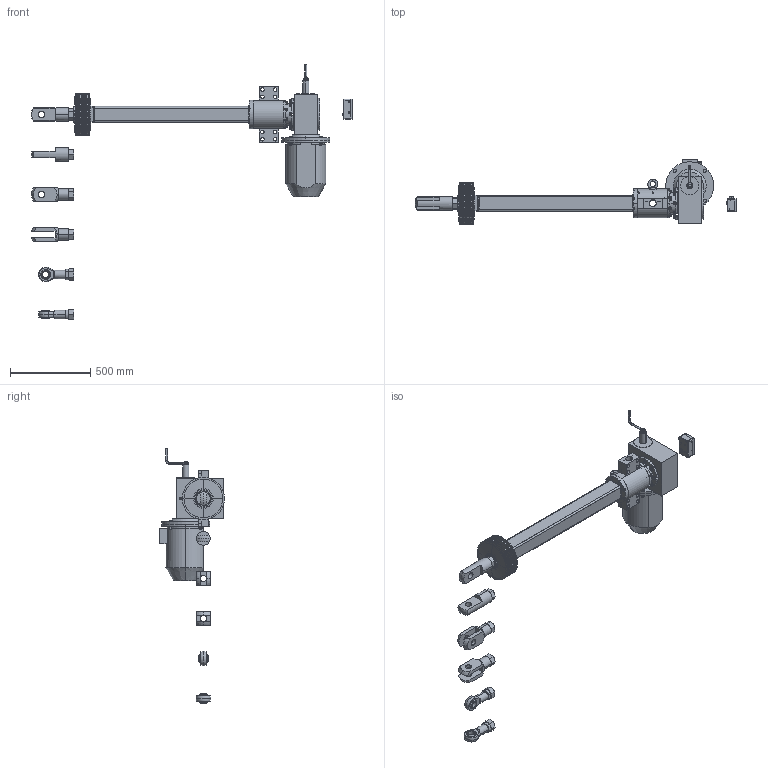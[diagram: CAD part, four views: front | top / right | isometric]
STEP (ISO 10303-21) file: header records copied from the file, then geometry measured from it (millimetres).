
FILE_DESCRIPTION (( 'STEP AP203' ), '1' );
FILE_NAME ('Ì4 6 800.STEP', '2016-12-22T08:30:00', ( '' ), ( '' ), 'SwSTEP 2.0', 'SolidWorks 2012', '' );
FILE_SCHEMA (( 'CONFIG_CONTROL_DESIGN' ));
Length unit declared in the file: millimetre
Products named in the file (9): ﾌ4 6 800; Ãîôð Ñ4_•®¤600; 迕 6; 苂 6; 迍 6; ﾁﾑﾏ; Ñ4 6 ïåðåä áàçà; ﾒ矜 6_800; ﾌ4 6 矜鈞
Assembly tree (11 placements, depth 2):
  ﾌ4 6 800
    ﾌ4 6 矜鈞
    ﾒ矜 6_800
    Ñ4 6 ïåðåä áàçà
    ﾁﾑﾏ
    迍 6  x2
    苂 6  x2
    迕 6  x2
    Ãîôð Ñ4_•®¤600
Bounding box: 2008 x 406 x 1596 mm (x, y, z)
Volume: 1450683.4 mm3; surface area: 6218832.3 mm2
Topology: 1 solids, 211 shells, 1899 faces, 5158 edges, 3490 vertices
Faces by surface type: plane 756, cylinder 603, cone 404, sphere 64, torus 60, bspline 12
Entity records: 60711 total; most frequent: CARTESIAN_POINT 14523, DIRECTION 10102, ORIENTED_EDGE 8162, EDGE_CURVE 4800, AXIS2_PLACEMENT_3D 4049, VERTEX_POINT 3272, CIRCLE 2253, EDGE_LOOP 2120
